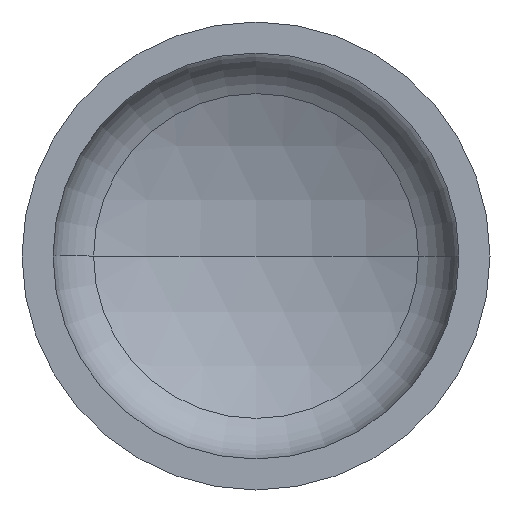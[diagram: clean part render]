
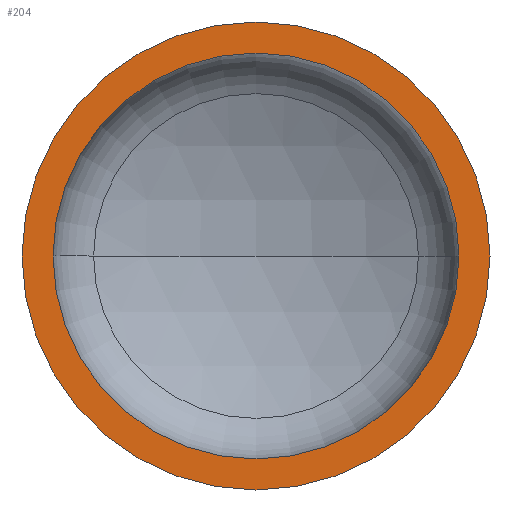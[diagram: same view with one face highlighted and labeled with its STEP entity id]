
A CAD part, front view. The second image highlights one B-rep face of the part: STEP entity #204.
In plain terms, the highlighted planar face has unit normal (0, -1, 0).
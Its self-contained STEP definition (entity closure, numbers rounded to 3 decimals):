
#2 = PLANE ( 'NONE',  #188 ) ;
#11 = ORIENTED_EDGE ( 'NONE', *, *, #81, .T. ) ;
#12 = VERTEX_POINT ( 'NONE', #279 ) ;
#21 = DIRECTION ( 'NONE',  ( 1., 0., 0. ) ) ;
#23 = DIRECTION ( 'NONE',  ( 0., -1., 0. ) ) ;
#48 = VERTEX_POINT ( 'NONE', #229 ) ;
#49 = ORIENTED_EDGE ( 'NONE', *, *, #114, .T. ) ;
#58 = EDGE_LOOP ( 'NONE', ( #409, #136 ) ) ;
#66 = DIRECTION ( 'NONE',  ( 0., 1., 0. ) ) ;
#73 = CIRCLE ( 'NONE', #124, 694. ) ;
#81 = EDGE_CURVE ( 'NONE', #97, #48, #395, .T. ) ;
#97 = VERTEX_POINT ( 'NONE', #331 ) ;
#113 = CARTESIAN_POINT ( 'NONE',  ( 0., 0., 0. ) ) ;
#114 = EDGE_CURVE ( 'NONE', #48, #97, #180, .T. ) ;
#124 = AXIS2_PLACEMENT_3D ( 'NONE', #363, #202, #383 ) ;
#136 = ORIENTED_EDGE ( 'NONE', *, *, #397, .F. ) ;
#138 = CIRCLE ( 'NONE', #241, 694. ) ;
#152 = CARTESIAN_POINT ( 'NONE',  ( -800., 0., 0. ) ) ;
#158 = CARTESIAN_POINT ( 'NONE',  ( 0., 0., 0. ) ) ;
#180 = CIRCLE ( 'NONE', #406, 800. ) ;
#184 = CARTESIAN_POINT ( 'NONE',  ( -694., 0., 0. ) ) ;
#188 = AXIS2_PLACEMENT_3D ( 'NONE', #152, #66, #283 ) ;
#202 = DIRECTION ( 'NONE',  ( 0., -1., 0. ) ) ;
#203 = VERTEX_POINT ( 'NONE', #184 ) ;
#204 = ADVANCED_FACE ( 'NONE', ( #374, #252 ), #2, .F. ) ;
#229 = CARTESIAN_POINT ( 'NONE',  ( 800., 0., 0. ) ) ;
#241 = AXIS2_PLACEMENT_3D ( 'NONE', #113, #23, #21 ) ;
#249 = EDGE_CURVE ( 'NONE', #12, #203, #138, .T. ) ;
#252 = FACE_OUTER_BOUND ( 'NONE', #299, .T. ) ;
#279 = CARTESIAN_POINT ( 'NONE',  ( 694., 0., 0. ) ) ;
#283 = DIRECTION ( 'NONE',  ( -1., 0., 0. ) ) ;
#299 = EDGE_LOOP ( 'NONE', ( #49, #11 ) ) ;
#303 = DIRECTION ( 'NONE',  ( 1., 0., 0. ) ) ;
#313 = DIRECTION ( 'NONE',  ( 0., -1., 0. ) ) ;
#316 = CARTESIAN_POINT ( 'NONE',  ( 0., 0., 0. ) ) ;
#331 = CARTESIAN_POINT ( 'NONE',  ( -800., 0., 0. ) ) ;
#332 = DIRECTION ( 'NONE',  ( 1., 0., 0. ) ) ;
#333 = DIRECTION ( 'NONE',  ( 0., -1., 0. ) ) ;
#363 = CARTESIAN_POINT ( 'NONE',  ( 0., 0., 0. ) ) ;
#374 = FACE_BOUND ( 'NONE', #58, .T. ) ;
#375 = AXIS2_PLACEMENT_3D ( 'NONE', #158, #333, #332 ) ;
#383 = DIRECTION ( 'NONE',  ( 1., 0., 0. ) ) ;
#395 = CIRCLE ( 'NONE', #375, 800. ) ;
#397 = EDGE_CURVE ( 'NONE', #203, #12, #73, .T. ) ;
#406 = AXIS2_PLACEMENT_3D ( 'NONE', #316, #313, #303 ) ;
#409 = ORIENTED_EDGE ( 'NONE', *, *, #249, .F. ) ;
